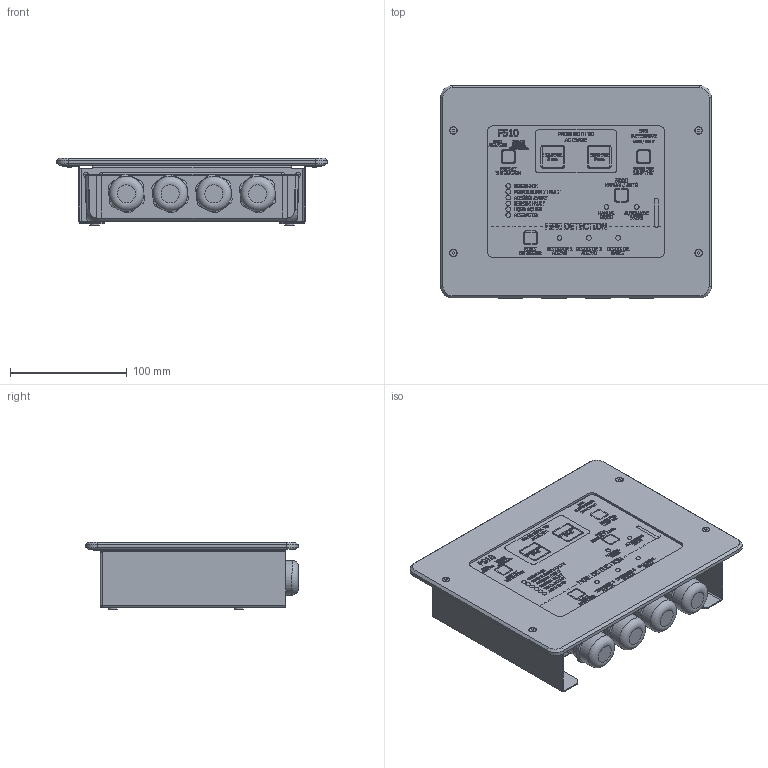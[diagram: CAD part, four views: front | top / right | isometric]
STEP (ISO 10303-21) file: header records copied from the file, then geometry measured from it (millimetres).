
FILE_DESCRIPTION(/* description */ ('Main Unit FS10'),/* implementation_level */ '2;1');
FILE_NAME(/* name */ '2878010012598_A.stp',/* time_stamp */ '2026-06-18T21:30:00+02:00',/* author */ ('tokti'),/* organization */ (''),/* preprocessor_version */ 'ST-DEVELOPER v20.1',/* originating_system */ 'Autodesk Inventor 2026',/* authorisation */ '');
FILE_SCHEMA (('AUTOMOTIVE_DESIGN { 1 0 10303 214 3 1 1 }'));
Products named in the file (7): 2878010012598; 287898010012597; 287898100012594; 287898100012595; 287898990012596; 287898030012301; 69403003008
Assembly tree (12 placements, depth 2):
  2878010012598
    287898010012597
    287898100012594
    287898100012595
    287898990012596
    287898030012301  x4
    69403003008  x4
Bounding box: 232 x 182.39 x 58 mm (x, y, z)
Volume: 471383.2 mm3; surface area: 337558.7 mm2
Topology: 21 solids, 21 shells, 6538 faces, 17060 edges, 11089 vertices
Faces by surface type: plane 3780, bspline 1715, cylinder 615, cone 256, sphere 96, torus 76
Full cylindrical faces by diameter (mm): 2.3 x4, 2.387 x4, 3 x4, 3.242 x4, 3.5 x4, 3.88 x4, 4 x15, 4.093 x8, 4.2 x16, 4.25 x4, 4.5 x4, 5.38 x4, 5.4 x4, 5.5 x4, 6 x4, 6.344 x4, 7.9 x4, 9 x4, 23 x4, 23.376 x4, 24.85 x4, 26.63 x4, 28.15 x4, 29.7 x12
Entity records: 233062 total; most frequent: CARTESIAN_POINT 83915, ORIENTED_EDGE 32760, DIRECTION 23708, EDGE_CURVE 16380, LINE 11324, VECTOR 11324, VERTEX_POINT 10726, EDGE_LOOP 6960
